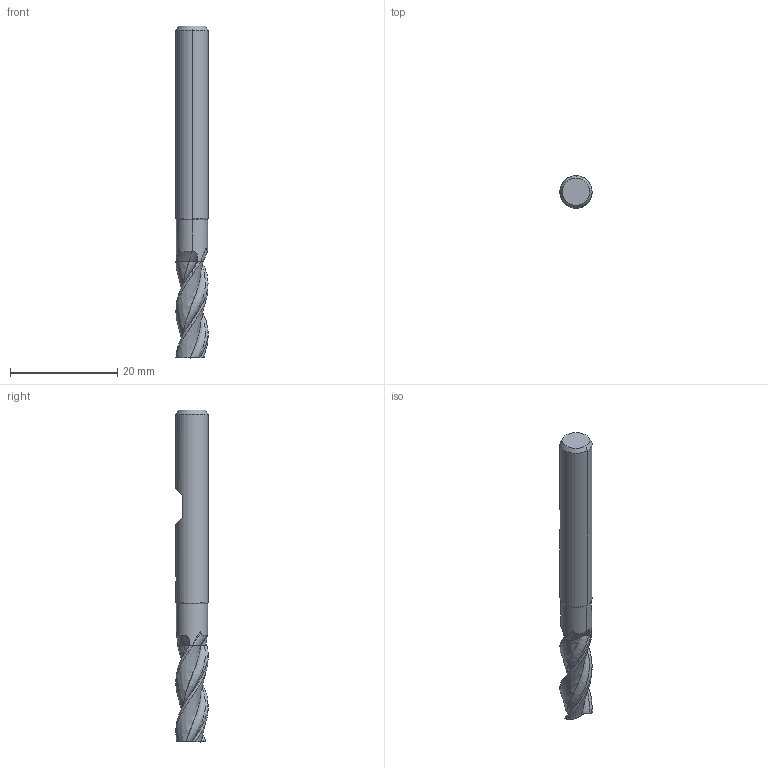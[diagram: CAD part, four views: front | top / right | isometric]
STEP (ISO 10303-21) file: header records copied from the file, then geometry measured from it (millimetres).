
FILE_DESCRIPTION(('no description'),'unknown implementation level');
FILE_NAME('solidE1_ZgwQ01hfAX_Ri2kSkZ35f_Sk_1.STP',' ',('CIMSOURCE GmbH'),('CADClick - KiM GmbH - www.kimweb.de'),'unknown preprocess','ACIS','unknown authorization');
FILE_SCHEMA(('automotive_design'));
Length unit declared in the file: millimetre
Products named in the file (2): NOCUT; CUT
Bounding box: 6 x 6 x 62 mm (x, y, z)
Volume: 1471.9 mm3; surface area: 1539.7 mm2
Topology: 2 solids, 2 shells, 112 faces, 306 edges, 197 vertices
Faces by surface type: bspline 36, plane 29, cone 19, cylinder 16, revolution 12
Entity records: 17527 total; most frequent: CARTESIAN_POINT 11626, STYLED_ITEM 617, PRESENTATION_STYLE_ASSIGNMENT 617, COLOUR_RGB 617, ORIENTED_EDGE 612, DIRECTION 355, EDGE_CURVE 306, CURVE_STYLE 306
